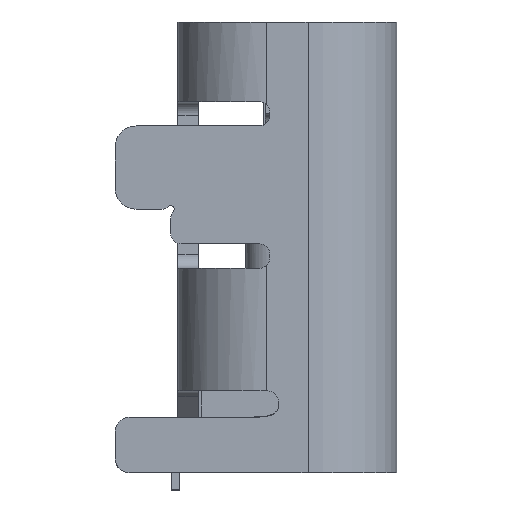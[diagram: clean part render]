
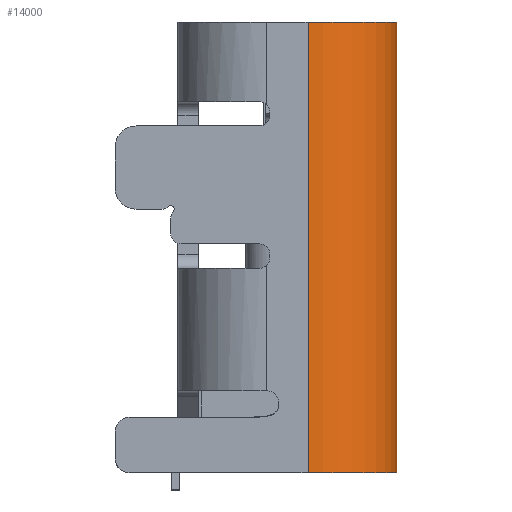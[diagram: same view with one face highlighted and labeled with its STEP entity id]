
A CAD part, left-side view. The second image highlights one B-rep face of the part: STEP entity #14000.
In plain terms, the highlighted cylindrical face has radius 1.28 mm (diameter 2.56 mm), a partial arc.
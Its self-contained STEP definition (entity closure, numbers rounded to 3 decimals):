
#2925=CARTESIAN_POINT('',(-3.19,-0.295,-6.35));
#2926=DIRECTION('',(0.,0.,1.));
#2927=DIRECTION('',(-1.,0.,0.));
#2928=AXIS2_PLACEMENT_3D('',#2925,#2926,#2927);
#2939=DIRECTION('',(0.,0.,1.));
#2940=VECTOR('',#2939,6.5);
#2941=CARTESIAN_POINT('',(-4.47,-0.295,-6.35));
#2942=LINE('',#2941,#2940);
#2943=DIRECTION('',(0.,0.,-1.));
#2944=VECTOR('',#2943,6.5);
#2945=CARTESIAN_POINT('',(-3.19,-1.575,0.15));
#2946=LINE('',#2945,#2944);
#2961=CARTESIAN_POINT('',(-3.19,-0.295,0.15));
#2962=DIRECTION('',(0.,0.,-1.));
#2963=DIRECTION('',(0.,-1.,0.));
#2964=AXIS2_PLACEMENT_3D('',#2961,#2962,#2963);
#9162=CARTESIAN_POINT('',(-4.47,-0.295,0.15));
#9163=VERTEX_POINT('',#9162);
#9164=CARTESIAN_POINT('',(-4.47,-0.295,-6.35));
#9165=VERTEX_POINT('',#9164);
#9391=CARTESIAN_POINT('',(-3.19,-1.575,0.15));
#9392=VERTEX_POINT('',#9391);
#9553=CARTESIAN_POINT('',(-3.19,-1.575,-6.35));
#9554=VERTEX_POINT('',#9553);
#13987=CARTESIAN_POINT('',(-3.19,-0.295,-1.35));
#13988=DIRECTION('',(0.,0.,1.));
#13989=DIRECTION('',(-1.,0.,0.));
#13990=AXIS2_PLACEMENT_3D('',#13987,#13988,#13989);
#13991=CYLINDRICAL_SURFACE('',#13990,1.28);
#13992=ORIENTED_EDGE('',*,*,#13468,.T.);
#13994=ORIENTED_EDGE('',*,*,#13993,.F.);
#13996=ORIENTED_EDGE('',*,*,#13995,.T.);
#13997=ORIENTED_EDGE('',*,*,#13973,.F.);
#13998=EDGE_LOOP('',(#13992,#13994,#13996,#13997));
#13999=FACE_OUTER_BOUND('',#13998,.F.);
#14000=ADVANCED_FACE('',(#13999),#13991,.T.);
#2929=CIRCLE('',#2928,1.28);
#2965=CIRCLE('',#2964,1.28);
#13468=EDGE_CURVE('',#9165,#9163,#2942,.T.);
#13973=EDGE_CURVE('',#9165,#9554,#2929,.T.);
#13993=EDGE_CURVE('',#9392,#9163,#2965,.T.);
#13995=EDGE_CURVE('',#9392,#9554,#2946,.T.);
